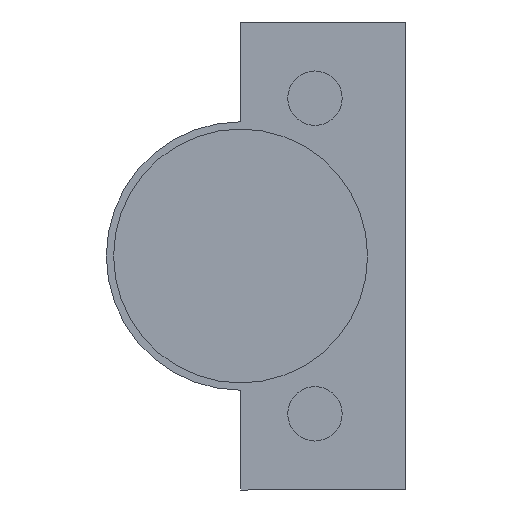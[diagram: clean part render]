
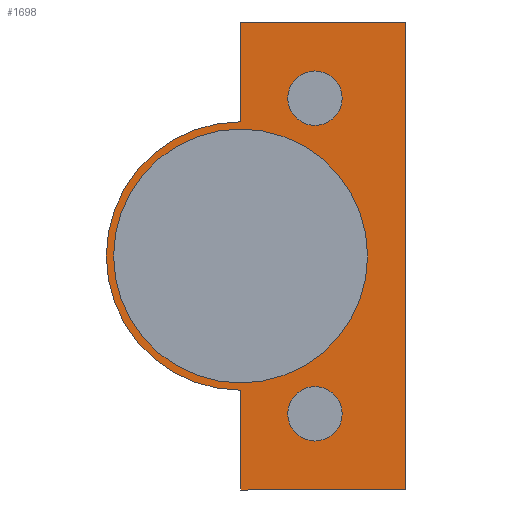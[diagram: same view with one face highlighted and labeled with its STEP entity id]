
A CAD part, front view. The second image highlights one B-rep face of the part: STEP entity #1698.
In plain terms, the highlighted planar face has unit normal (0, -1, 0).
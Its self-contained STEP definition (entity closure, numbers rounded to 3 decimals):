
#17 = CIRCLE ( 'NONE', #1299, 3.75 ) ;
#24 = CIRCLE ( 'NONE', #1210, 18.5 ) ;
#41 = VECTOR ( 'NONE', #1161, 1000. ) ;
#44 = CIRCLE ( 'NONE', #1240, 3.75 ) ;
#47 = LINE ( 'NONE', #1500, #41 ) ;
#82 = LINE ( 'NONE', #311, #83 ) ;
#83 = VECTOR ( 'NONE', #312, 1000. ) ;
#90 = CIRCLE ( 'NONE', #1339, 3.75 ) ;
#104 = CIRCLE ( 'NONE', #1303, 17.5 ) ;
#115 = LINE ( 'NONE', #362, #125 ) ;
#116 = LINE ( 'NONE', #356, #123 ) ;
#123 = VECTOR ( 'NONE', #364, 1000. ) ;
#125 = VECTOR ( 'NONE', #366, 1000. ) ;
#129 = CIRCLE ( 'NONE', #1393, 3.75 ) ;
#150 = CIRCLE ( 'NONE', #1246, 17.5 ) ;
#160 = LINE ( 'NONE', #406, #161 ) ;
#161 = VECTOR ( 'NONE', #407, 1000. ) ;
#237 = FACE_OUTER_BOUND ( 'NONE', #1065, .T. ) ;
#240 = FACE_BOUND ( 'NONE', #1069, .T. ) ;
#242 = FACE_BOUND ( 'NONE', #1062, .T. ) ;
#244 = FACE_BOUND ( 'NONE', #1077, .T. ) ;
#311 = CARTESIAN_POINT ( 'NONE',  ( 12., 0., -31. ) ) ;
#312 = DIRECTION ( 'NONE',  ( 0., 0., 1. ) ) ;
#316 = CARTESIAN_POINT ( 'NONE',  ( 22.25, 0., 21.75 ) ) ;
#318 = DIRECTION ( 'NONE',  ( 0., 1., 0. ) ) ;
#319 = DIRECTION ( 'NONE',  ( -1., 0., 0. ) ) ;
#324 = CARTESIAN_POINT ( 'NONE',  ( 12., 0., 0. ) ) ;
#336 = DIRECTION ( 'NONE',  ( 0., -1., 0. ) ) ;
#337 = DIRECTION ( 'NONE',  ( -1., 0., 0. ) ) ;
#356 = CARTESIAN_POINT ( 'NONE',  ( 34.75, 0., -32.25 ) ) ;
#362 = CARTESIAN_POINT ( 'NONE',  ( 34.75, 0., 32.25 ) ) ;
#364 = DIRECTION ( 'NONE',  ( 1., 0., 0. ) ) ;
#365 = CARTESIAN_POINT ( 'NONE',  ( 22.25, 0., -21.75 ) ) ;
#366 = DIRECTION ( 'NONE',  ( 0., 0., -1. ) ) ;
#367 = DIRECTION ( 'NONE',  ( 0., 1., 0. ) ) ;
#368 = DIRECTION ( 'NONE',  ( -1., 0., 0. ) ) ;
#378 = CARTESIAN_POINT ( 'NONE',  ( 12., 0., 0. ) ) ;
#391 = DIRECTION ( 'NONE',  ( 0., -1., 0. ) ) ;
#392 = DIRECTION ( 'NONE',  ( -1., 0., 0. ) ) ;
#406 = CARTESIAN_POINT ( 'NONE',  ( 34.75, 0., 32.25 ) ) ;
#407 = DIRECTION ( 'NONE',  ( 1., 0., 0. ) ) ;
#445 = CARTESIAN_POINT ( 'NONE',  ( 18.5, 0., -21.75 ) ) ;
#447 = CARTESIAN_POINT ( 'NONE',  ( 34.75, 0., 32.25 ) ) ;
#448 = CARTESIAN_POINT ( 'NONE',  ( 12., 0., 32.25 ) ) ;
#451 = CARTESIAN_POINT ( 'NONE',  ( 12., 0., -32.25 ) ) ;
#452 = CARTESIAN_POINT ( 'NONE',  ( 29.5, 0., 0. ) ) ;
#453 = CARTESIAN_POINT ( 'NONE',  ( 26., 0., -21.75 ) ) ;
#455 = CARTESIAN_POINT ( 'NONE',  ( -5.5, 0., 0. ) ) ;
#456 = CARTESIAN_POINT ( 'NONE',  ( 12., 0., 18.5 ) ) ;
#457 = CARTESIAN_POINT ( 'NONE',  ( 26., 0., 21.75 ) ) ;
#459 = CARTESIAN_POINT ( 'NONE',  ( 18.5, 0., 21.75 ) ) ;
#463 = CARTESIAN_POINT ( 'NONE',  ( 34.75, 0., -32.25 ) ) ;
#467 = CARTESIAN_POINT ( 'NONE',  ( 12., 0., -18.5 ) ) ;
#688 = PLANE ( 'NONE',  #1264 ) ;
#691 = CARTESIAN_POINT ( 'NONE',  ( 12., 0., 0. ) ) ;
#696 = DIRECTION ( 'NONE',  ( 0., 1., 0. ) ) ;
#697 = DIRECTION ( 'NONE',  ( -1., 0., 0. ) ) ;
#905 = ORIENTED_EDGE ( 'NONE', *, *, #1285, .F. ) ;
#906 = ORIENTED_EDGE ( 'NONE', *, *, #1331, .T. ) ;
#907 = ORIENTED_EDGE ( 'NONE', *, *, #1332, .F. ) ;
#908 = ORIENTED_EDGE ( 'NONE', *, *, #1378, .F. ) ;
#909 = ORIENTED_EDGE ( 'NONE', *, *, #1232, .F. ) ;
#910 = ORIENTED_EDGE ( 'NONE', *, *, #1216, .F. ) ;
#911 = ORIENTED_EDGE ( 'NONE', *, *, #1333, .T. ) ;
#912 = ORIENTED_EDGE ( 'NONE', *, *, #1227, .T. ) ;
#913 = ORIENTED_EDGE ( 'NONE', *, *, #1288, .T. ) ;
#914 = ORIENTED_EDGE ( 'NONE', *, *, #1212, .T. ) ;
#915 = ORIENTED_EDGE ( 'NONE', *, *, #1359, .F. ) ;
#916 = ORIENTED_EDGE ( 'NONE', *, *, #1296, .F. ) ;
#1062 = EDGE_LOOP ( 'NONE', ( #913, #914 ) ) ;
#1065 = EDGE_LOOP ( 'NONE', ( #905, #906, #907, #908, #909, #910 ) ) ;
#1069 = EDGE_LOOP ( 'NONE', ( #911, #912 ) ) ;
#1077 = EDGE_LOOP ( 'NONE', ( #915, #916 ) ) ;
#1161 = DIRECTION ( 'NONE',  ( 0., 0., 1. ) ) ;
#1210 = AXIS2_PLACEMENT_3D ( 'NONE', #1480, #1485, #1486 ) ;
#1212 = EDGE_CURVE ( 'NONE', #1532, #1534, #17, .T. ) ;
#1216 = EDGE_CURVE ( 'NONE', #1542, #1531, #24, .T. ) ;
#1227 = EDGE_CURVE ( 'NONE', #1528, #1520, #44, .T. ) ;
#1232 = EDGE_CURVE ( 'NONE', #1531, #1523, #47, .T. ) ;
#1240 = AXIS2_PLACEMENT_3D ( 'NONE', #1428, #1423, #1424 ) ;
#1246 = AXIS2_PLACEMENT_3D ( 'NONE', #378, #391, #392 ) ;
#1264 = AXIS2_PLACEMENT_3D ( 'NONE', #691, #696, #697 ) ;
#1285 = EDGE_CURVE ( 'NONE', #1526, #1542, #82, .T. ) ;
#1288 = EDGE_CURVE ( 'NONE', #1534, #1532, #90, .T. ) ;
#1296 = EDGE_CURVE ( 'NONE', #1527, #1530, #104, .T. ) ;
#1299 = AXIS2_PLACEMENT_3D ( 'NONE', #1472, #1475, #1476 ) ;
#1303 = AXIS2_PLACEMENT_3D ( 'NONE', #324, #336, #337 ) ;
#1331 = EDGE_CURVE ( 'NONE', #1526, #1538, #116, .T. ) ;
#1332 = EDGE_CURVE ( 'NONE', #1522, #1538, #115, .T. ) ;
#1333 = EDGE_CURVE ( 'NONE', #1520, #1528, #129, .T. ) ;
#1339 = AXIS2_PLACEMENT_3D ( 'NONE', #316, #318, #319 ) ;
#1359 = EDGE_CURVE ( 'NONE', #1530, #1527, #150, .T. ) ;
#1378 = EDGE_CURVE ( 'NONE', #1523, #1522, #160, .T. ) ;
#1393 = AXIS2_PLACEMENT_3D ( 'NONE', #365, #367, #368 ) ;
#1423 = DIRECTION ( 'NONE',  ( 0., 1., 0. ) ) ;
#1424 = DIRECTION ( 'NONE',  ( -1., 0., 0. ) ) ;
#1428 = CARTESIAN_POINT ( 'NONE',  ( 22.25, 0., -21.75 ) ) ;
#1472 = CARTESIAN_POINT ( 'NONE',  ( 22.25, 0., 21.75 ) ) ;
#1475 = DIRECTION ( 'NONE',  ( 0., 1., 0. ) ) ;
#1476 = DIRECTION ( 'NONE',  ( -1., 0., 0. ) ) ;
#1480 = CARTESIAN_POINT ( 'NONE',  ( 12., 0., 0. ) ) ;
#1485 = DIRECTION ( 'NONE',  ( 0., 1., 0. ) ) ;
#1486 = DIRECTION ( 'NONE',  ( -1., 0., 0. ) ) ;
#1500 = CARTESIAN_POINT ( 'NONE',  ( 12., 0., 18.5 ) ) ;
#1520 = VERTEX_POINT ( 'NONE', #445 ) ;
#1522 = VERTEX_POINT ( 'NONE', #447 ) ;
#1523 = VERTEX_POINT ( 'NONE', #448 ) ;
#1526 = VERTEX_POINT ( 'NONE', #451 ) ;
#1527 = VERTEX_POINT ( 'NONE', #452 ) ;
#1528 = VERTEX_POINT ( 'NONE', #453 ) ;
#1530 = VERTEX_POINT ( 'NONE', #455 ) ;
#1531 = VERTEX_POINT ( 'NONE', #456 ) ;
#1532 = VERTEX_POINT ( 'NONE', #457 ) ;
#1534 = VERTEX_POINT ( 'NONE', #459 ) ;
#1538 = VERTEX_POINT ( 'NONE', #463 ) ;
#1542 = VERTEX_POINT ( 'NONE', #467 ) ;
#1698 = ADVANCED_FACE ( 'NONE', ( #237, #240, #242, #244 ), #688, .F. ) ;
